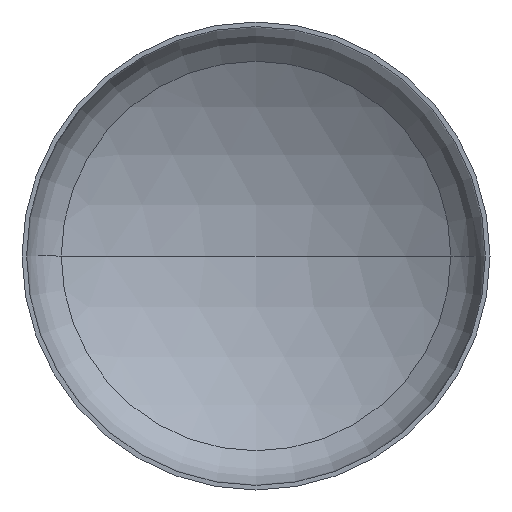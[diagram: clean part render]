
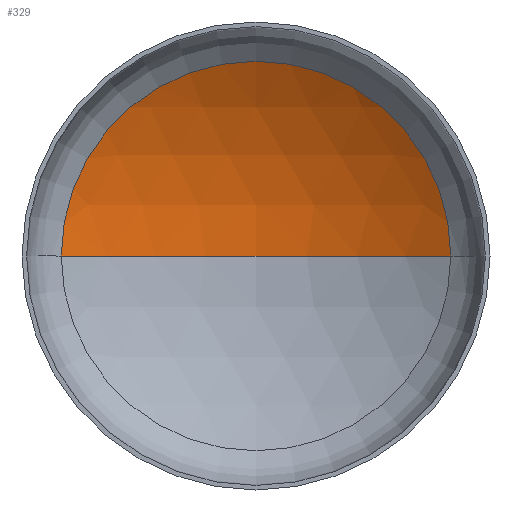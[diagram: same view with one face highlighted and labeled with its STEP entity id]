
A CAD part, front view. The second image highlights one B-rep face of the part: STEP entity #329.
In plain terms, the highlighted spherical face has radius 3600 mm.
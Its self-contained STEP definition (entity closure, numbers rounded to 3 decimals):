
#4 = AXIS2_PLACEMENT_3D ( 'NONE', #142, #350, #172 ) ;
#6 = CIRCLE ( 'NONE', #4, 3600. ) ;
#9 = AXIS2_PLACEMENT_3D ( 'NONE', #97, #140, #283 ) ;
#14 = AXIS2_PLACEMENT_3D ( 'NONE', #115, #160, #335 ) ;
#15 = CARTESIAN_POINT ( 'NONE',  ( 0., 1258.891, 0. ) ) ;
#17 = AXIS2_PLACEMENT_3D ( 'NONE', #368, #192, #132 ) ;
#97 = CARTESIAN_POINT ( 'NONE',  ( 0., -2341.109, 0. ) ) ;
#115 = CARTESIAN_POINT ( 'NONE',  ( 0., -2341.109, 0. ) ) ;
#118 = ORIENTED_EDGE ( 'NONE', *, *, #378, .T. ) ;
#124 = CARTESIAN_POINT ( 'NONE',  ( -1872.496, 733.587, 0. ) ) ;
#126 = SPHERICAL_SURFACE ( 'NONE', #14, 3600. ) ;
#132 = DIRECTION ( 'NONE',  ( 1., 0., 0. ) ) ;
#140 = DIRECTION ( 'NONE',  ( 0., 0., 1. ) ) ;
#142 = CARTESIAN_POINT ( 'NONE',  ( 0., -2341.109, 0. ) ) ;
#149 = CARTESIAN_POINT ( 'NONE',  ( 1872.496, 733.587, 0. ) ) ;
#158 = ORIENTED_EDGE ( 'NONE', *, *, #372, .F. ) ;
#160 = DIRECTION ( 'NONE',  ( 0., 0., -1. ) ) ;
#172 = DIRECTION ( 'NONE',  ( -1., 0., 0. ) ) ;
#174 = VERTEX_POINT ( 'NONE', #149 ) ;
#192 = DIRECTION ( 'NONE',  ( 0., -1., 0. ) ) ;
#204 = FACE_OUTER_BOUND ( 'NONE', #364, .T. ) ;
#222 = ORIENTED_EDGE ( 'NONE', *, *, #324, .T. ) ;
#231 = VERTEX_POINT ( 'NONE', #15 ) ;
#263 = CIRCLE ( 'NONE', #9, 3600. ) ;
#283 = DIRECTION ( 'NONE',  ( 1., 0., 0. ) ) ;
#303 = VERTEX_POINT ( 'NONE', #124 ) ;
#324 = EDGE_CURVE ( 'NONE', #174, #303, #359, .T. ) ;
#329 = ADVANCED_FACE ( 'NONE', ( #204 ), #126, .F. ) ;
#335 = DIRECTION ( 'NONE',  ( -1., 0., 0. ) ) ;
#350 = DIRECTION ( 'NONE',  ( 0., 0., -1. ) ) ;
#359 = CIRCLE ( 'NONE', #17, 1872.496 ) ;
#364 = EDGE_LOOP ( 'NONE', ( #158, #118, #222 ) ) ;
#368 = CARTESIAN_POINT ( 'NONE',  ( 0., 733.587, 0. ) ) ;
#372 = EDGE_CURVE ( 'NONE', #231, #303, #263, .T. ) ;
#378 = EDGE_CURVE ( 'NONE', #231, #174, #6, .T. ) ;
